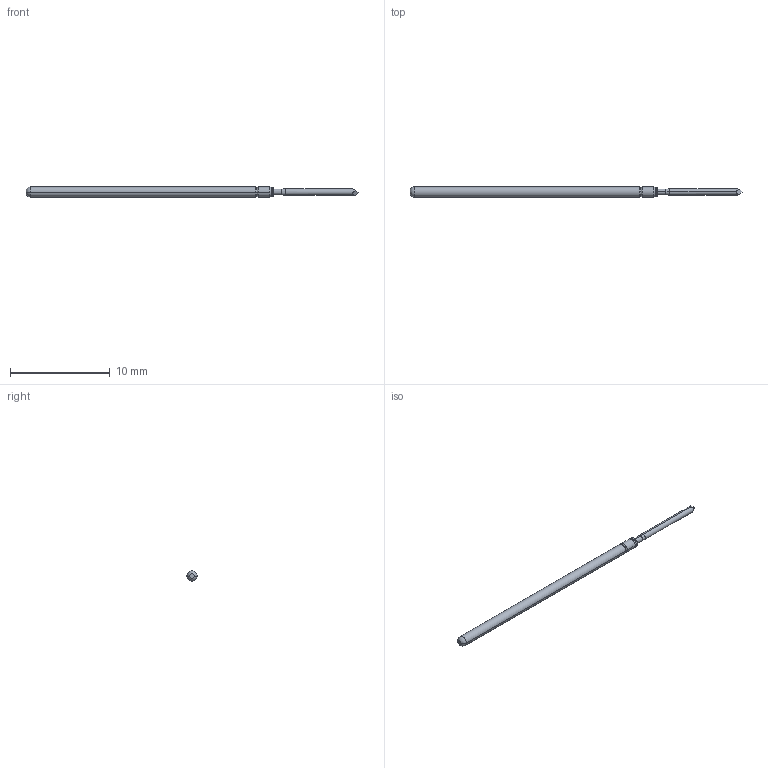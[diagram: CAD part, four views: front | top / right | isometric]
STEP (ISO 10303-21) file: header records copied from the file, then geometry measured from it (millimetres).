
FILE_DESCRIPTION (( 'STEP AP203' ), '1' );
FILE_NAME ('101024-025-922 (REST).STEP', '2022-11-18T09:46:39', ( '' ), ( '' ), 'SwSTEP 2.0', 'SolidWorks 2022', '' );
FILE_SCHEMA (( 'CONFIG_CONTROL_DESIGN' ));
Length unit declared in the file: inch
Products named in the file (1): 101024-025-922 (REST)
Bounding box: 33.27 x 1.02 x 1.02 mm (x, y, z)
Volume: 22.7 mm3; surface area: 96.6 mm2
Topology: 1 solids, 1 shells, 28 faces, 55 edges, 31 vertices
Faces by surface type: cylinder 10, torus 6, cone 6, plane 6
Entity records: 794 total; most frequent: DIRECTION 141, CARTESIAN_POINT 127, ORIENTED_EDGE 110, AXIS2_PLACEMENT_3D 61, EDGE_CURVE 55, CIRCLE 32, VERTEX_POINT 31, EDGE_LOOP 30
